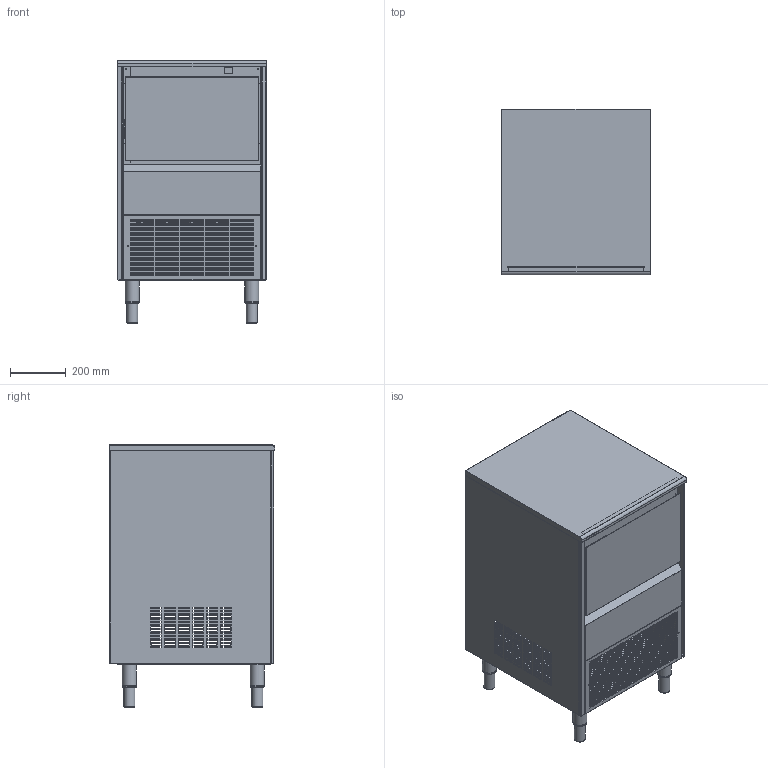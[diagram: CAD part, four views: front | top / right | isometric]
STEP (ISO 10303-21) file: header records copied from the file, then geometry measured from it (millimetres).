
FILE_DESCRIPTION(/* description */ ('Unknown'),/* implementation_level */ '2;1');
FILE_NAME(/* name */ 'NDP-55',/* time_stamp */ '2018-04-20T08:26:14+02:00',/* author */ ('Unknown'),/* organization */ ('Unknown'),/* preprocessor_version */ 'ST-DEVELOPER v16.7',/* originating_system */ 'DEX',/* authorisation */ $);
FILE_SCHEMA (('CONFIG_CONTROL_DESIGN'));
Products named in the file (17): NDP-55; NDP-55+carroceria_oa_0; 32-1+4160; 32-3+160_R01; 32-10+490; 32-4+161; 32-5+207; 32-7+4169; 32-6+4168; 32-44+4393; 32-11+5791_oa_1; 32-12+4165; 32-9+4170; 35-45; 32-10+489; 32-25+4172; 32-30
Assembly tree (19 placements, depth 4):
  NDP-55
    NDP-55+carroceria_oa_0
      32-1+4160
      32-3+160_R01
      32-10+490
      32-4+161
      32-5+207
      32-7+4169
      32-6+4168
      32-44+4393
      32-11+5791_oa_1
        32-12+4165
      32-9+4170
      35-45
      32-10+489
      32-25+4172
    32-30  x4
Bounding box: 535 x 595.3 x 942.9 mm (x, y, z)
Volume: 3414583.2 mm3; surface area: 5682847.7 mm2
Topology: 17 solids, 17 shells, 2797 faces, 8174 edges, 5468 vertices
Faces by surface type: plane 2036, cylinder 743, torus 8, bspline 6, cone 4
Full cylindrical faces by diameter (mm): 2.4 x18, 2.5 x1, 2.7 x24, 2.9 x6, 3.25 x3, 3.5 x20, 4 x3, 4.25 x63, 5 x26, 6 x13, 7 x14, 8 x8, 9 x2, 10 x4, 13 x1, 30 x1, 38 x4, 40 x4, 50 x4, 51 x4
Entity records: 93156 total; most frequent: CARTESIAN_POINT 16620, ORIENTED_EDGE 15556, DIRECTION 14653, EDGE_CURVE 7778, LINE 6201, VECTOR 6201, VERTEX_POINT 5307, EDGE_LOOP 4501
